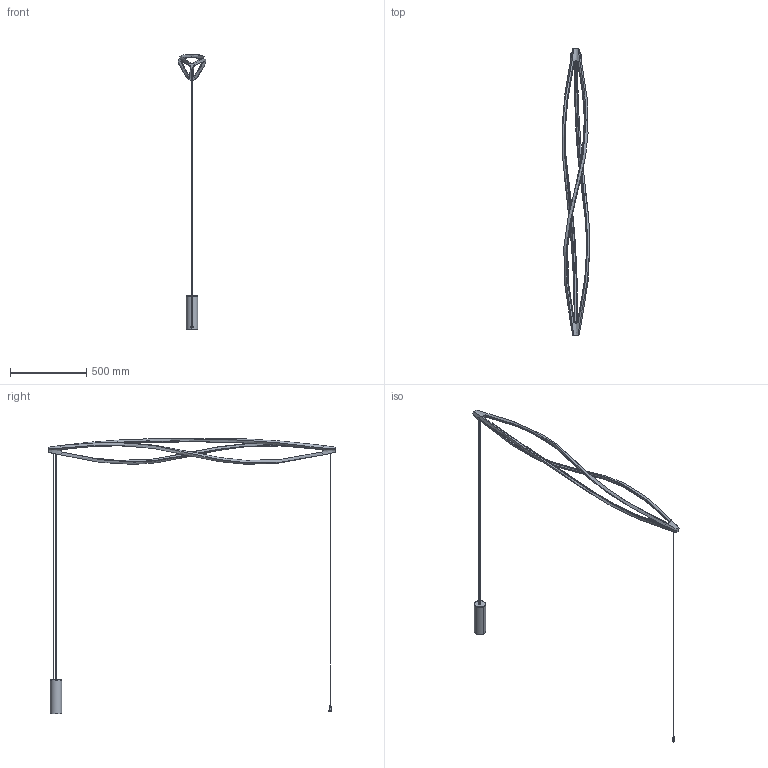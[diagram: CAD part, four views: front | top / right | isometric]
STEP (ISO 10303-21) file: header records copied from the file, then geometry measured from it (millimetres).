
FILE_DESCRIPTION (( 'STEP AP214' ), '1' );
FILE_NAME ('3D_IN_THE_WIND_H.STEP', '2018-02-19T17:46:48', ( 'Utente' ), ( '' ), 'SwSTEP 2.0', 'SolidWorks 2016', '' );
FILE_SCHEMA (( 'AUTOMOTIVE_DESIGN' ));
Length unit declared in the file: millimetre
Products named in the file (4): Group3^3D_IN_THE_WIND_H; Group2^3D_IN_THE_WIND_H; Group1^3D_IN_THE_WIND_H; 3D_IN_THE_WIND_H
Assembly tree (3 placements, depth 2):
  3D_IN_THE_WIND_H
    Group1^3D_IN_THE_WIND_H
    Group2^3D_IN_THE_WIND_H
    Group3^3D_IN_THE_WIND_H
Bounding box: 180.37 x 1876.75 x 1798.73 mm (x, y, z)
Volume: 3104139.4 mm3; surface area: 786228.7 mm2
Topology: 11 solids, 11 shells, 194 faces, 456 edges, 290 vertices
Faces by surface type: bspline 80, plane 46, cylinder 34, torus 25, cone 7, sphere 2
Entity records: 10553 total; most frequent: CARTESIAN_POINT 5893, ORIENTED_EDGE 904, DIRECTION 694, EDGE_CURVE 452, VERTEX_POINT 288, AXIS2_PLACEMENT_3D 244, LINE 206, VECTOR 206
